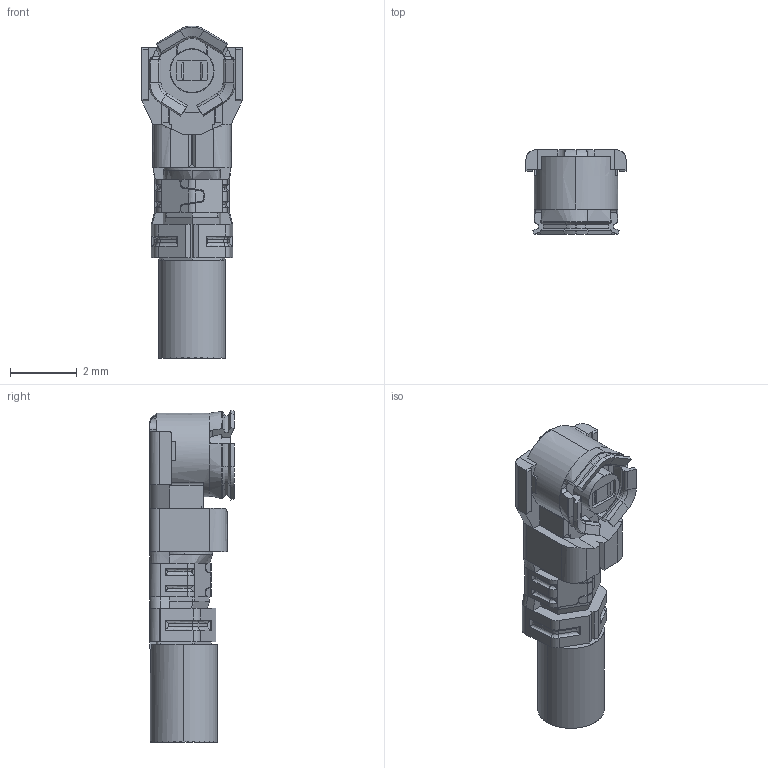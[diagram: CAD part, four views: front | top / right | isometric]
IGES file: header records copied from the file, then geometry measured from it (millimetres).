
Start section: SolidWorks IGES file using analytic representation for surfaces
Bounding box: 3 x 2.53 x 9.95 mm (x, y, z)
Surface area: 106.1 mm2 (no closed solid volume)
Topology: 0 solids, 0 shells, 440 faces, 3021 edges, 3018 vertices
Faces by surface type: bspline 299, revolution 141
